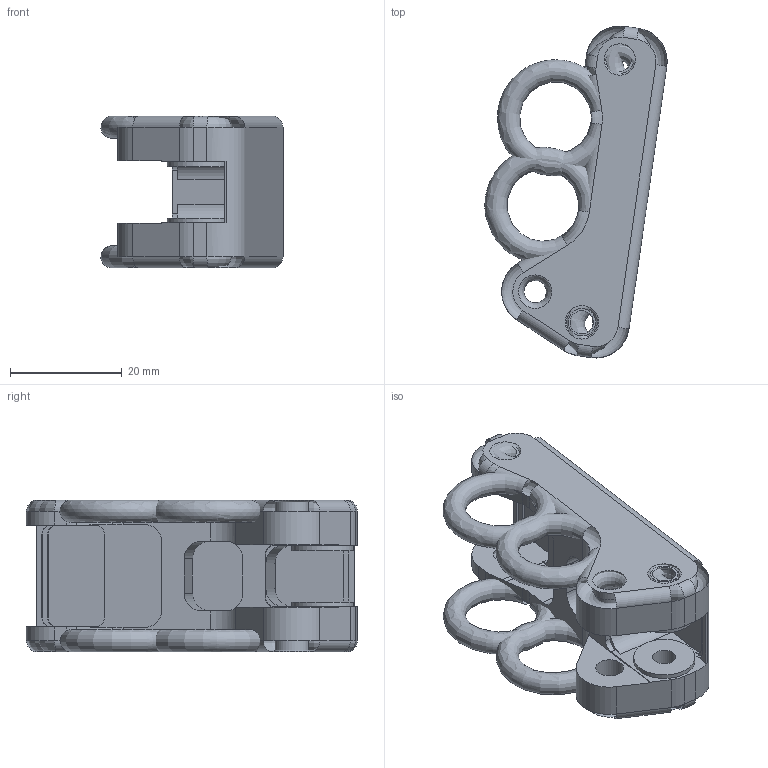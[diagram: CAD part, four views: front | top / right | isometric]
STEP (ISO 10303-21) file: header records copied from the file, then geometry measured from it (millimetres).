
FILE_DESCRIPTION(('sldprt2step conversion of Parasolid XT B-rep'),'2;1');
FILE_NAME('2F-85 barre.SLDPRT','',(''),(''),'sldprt2step','','');
FILE_SCHEMA(('AUTOMOTIVE_DESIGN { 1 0 10303 214 1 1 1 1 }'));
Length unit declared in the file: millimetre
Products named in the file (1): 2F-85 barre
Bounding box: 32.63 x 59.39 x 27.2 mm (x, y, z)
Volume: 7707.4 mm3; surface area: 13505.2 mm2
Topology: 1 solids, 1 shells, 148 faces, 406 edges, 256 vertices
Faces by surface type: cylinder 66, plane 60, revolution 18, cone 4
Full cylindrical faces by diameter (mm): 4.2 x4, 5 x2, 5.5 x2, 6 x4, 11 x2
Entity records: 4916 total; most frequent: CARTESIAN_POINT 1298, DIRECTION 782, ORIENTED_EDGE 700, EDGE_CURVE 350, AXIS2_PLACEMENT_3D 291, VERTEX_POINT 236, EDGE_LOOP 192, VECTOR 182
